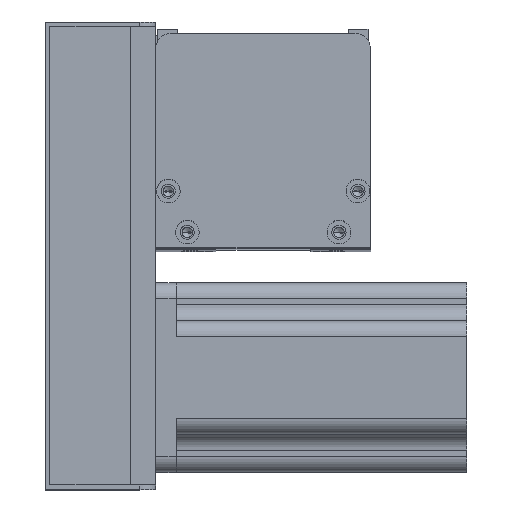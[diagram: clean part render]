
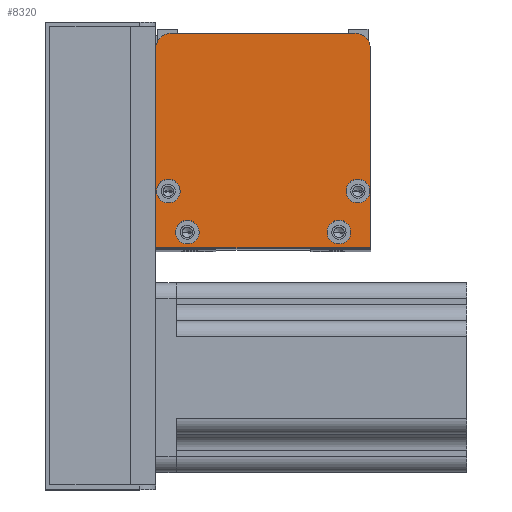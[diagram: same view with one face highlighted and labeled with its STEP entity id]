
A CAD part, top view. The second image highlights one B-rep face of the part: STEP entity #8320.
In plain terms, the highlighted planar face has unit normal (0, 0, 1) as drawn and (0, 0, -1) by its records, which use the part's own axes.
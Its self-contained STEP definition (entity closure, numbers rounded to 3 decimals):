
#106 = DIRECTION ( 'NONE',  ( 0., 0., -1. ) ) ;
#337 = CARTESIAN_POINT ( 'NONE',  ( 0., 0., 0. ) ) ;
#727 = AXIS2_PLACEMENT_3D ( 'NONE', #23119, #25341, #7541 ) ;
#812 = EDGE_CURVE ( 'NONE', #918, #6177, #8891, .T. ) ;
#838 = VERTEX_POINT ( 'NONE', #6236 ) ;
#918 = VERTEX_POINT ( 'NONE', #24018 ) ;
#922 = CARTESIAN_POINT ( 'NONE',  ( 7.75, 18., 0. ) ) ;
#1295 = EDGE_LOOP ( 'NONE', ( #4716, #22606, #21475, #19825, #5193, #1501 ) ) ;
#1487 = EDGE_CURVE ( 'NONE', #25387, #25474, #13544, .T. ) ;
#1501 = ORIENTED_EDGE ( 'NONE', *, *, #9796, .F. ) ;
#1658 = VERTEX_POINT ( 'NONE', #7023 ) ;
#2533 = VECTOR ( 'NONE', #11234, 1000. ) ;
#2641 = VERTEX_POINT ( 'NONE', #20633 ) ;
#2705 = CIRCLE ( 'NONE', #727, 3.75 ) ;
#2722 = EDGE_CURVE ( 'NONE', #11099, #2641, #19748, .T. ) ;
#3133 = DIRECTION ( 'NONE',  ( 0., 1., 0. ) ) ;
#3164 = CARTESIAN_POINT ( 'NONE',  ( 6.25, 5., 0. ) ) ;
#3736 = EDGE_CURVE ( 'NONE', #22173, #8537, #14357, .T. ) ;
#3823 = DIRECTION ( 'NONE',  ( 0., 0., -1. ) ) ;
#3902 = CARTESIAN_POINT ( 'NONE',  ( 63., 63., 0. ) ) ;
#3905 = CIRCLE ( 'NONE', #6920, 3.75 ) ;
#4157 = ORIENTED_EDGE ( 'NONE', *, *, #8635, .F. ) ;
#4221 = CARTESIAN_POINT ( 'NONE',  ( 4., 18., 0. ) ) ;
#4716 = ORIENTED_EDGE ( 'NONE', *, *, #4945, .F. ) ;
#4934 = ORIENTED_EDGE ( 'NONE', *, *, #1487, .F. ) ;
#4945 = EDGE_CURVE ( 'NONE', #838, #18452, #21018, .T. ) ;
#5099 = CIRCLE ( 'NONE', #17004, 3.75 ) ;
#5193 = ORIENTED_EDGE ( 'NONE', *, *, #2722, .F. ) ;
#5435 = EDGE_CURVE ( 'NONE', #25474, #25387, #14721, .T. ) ;
#5538 = FACE_BOUND ( 'NONE', #16887, .T. ) ;
#5614 = AXIS2_PLACEMENT_3D ( 'NONE', #10322, #6140, #14075 ) ;
#5777 = VECTOR ( 'NONE', #13122, 1000. ) ;
#5878 = CIRCLE ( 'NONE', #13286, 3.75 ) ;
#6140 = DIRECTION ( 'NONE',  ( 0., 0., -1. ) ) ;
#6164 = DIRECTION ( 'NONE',  ( 0., 0., 1. ) ) ;
#6177 = VERTEX_POINT ( 'NONE', #11402 ) ;
#6236 = CARTESIAN_POINT ( 'NONE',  ( 0., 63., 0. ) ) ;
#6920 = AXIS2_PLACEMENT_3D ( 'NONE', #4221, #106, #15967 ) ;
#7019 = CARTESIAN_POINT ( 'NONE',  ( 68., 0., 0. ) ) ;
#7023 = CARTESIAN_POINT ( 'NONE',  ( 54.25, 5., 0. ) ) ;
#7030 = DIRECTION ( 'NONE',  ( 0., 0., -1. ) ) ;
#7290 = DIRECTION ( 'NONE',  ( 0., 0., -1. ) ) ;
#7381 = CIRCLE ( 'NONE', #5614, 5. ) ;
#7541 = DIRECTION ( 'NONE',  ( -1., 0., 0. ) ) ;
#7988 = EDGE_CURVE ( 'NONE', #6177, #918, #5878, .T. ) ;
#8244 = PLANE ( 'NONE',  #12789 ) ;
#8320 = ADVANCED_FACE ( 'NONE', ( #18039, #16183, #10851, #5538, #22775 ), #8244, .F. ) ;
#8537 = VERTEX_POINT ( 'NONE', #24985 ) ;
#8635 = EDGE_CURVE ( 'NONE', #1658, #13473, #2705, .T. ) ;
#8891 = CIRCLE ( 'NONE', #10342, 3.75 ) ;
#9253 = EDGE_CURVE ( 'NONE', #838, #21835, #7381, .T. ) ;
#9796 = EDGE_CURVE ( 'NONE', #18452, #11099, #12613, .T. ) ;
#9977 = EDGE_CURVE ( 'NONE', #13473, #1658, #5099, .T. ) ;
#10002 = DIRECTION ( 'NONE',  ( 1., 0., 0. ) ) ;
#10155 = DIRECTION ( 'NONE',  ( 0., 0., -1. ) ) ;
#10195 = AXIS2_PLACEMENT_3D ( 'NONE', #12602, #12686, #16468 ) ;
#10322 = CARTESIAN_POINT ( 'NONE',  ( 5., 63., 0. ) ) ;
#10342 = AXIS2_PLACEMENT_3D ( 'NONE', #25979, #10155, #23935 ) ;
#10821 = EDGE_LOOP ( 'NONE', ( #20292, #25629 ) ) ;
#10851 = FACE_BOUND ( 'NONE', #17739, .T. ) ;
#10856 = EDGE_LOOP ( 'NONE', ( #11630, #17245 ) ) ;
#11099 = VERTEX_POINT ( 'NONE', #23438 ) ;
#11124 = DIRECTION ( 'NONE',  ( 0., 0., -1. ) ) ;
#11234 = DIRECTION ( 'NONE',  ( 0., -1., 0. ) ) ;
#11364 = CARTESIAN_POINT ( 'NONE',  ( 58., 5., 0. ) ) ;
#11374 = EDGE_CURVE ( 'NONE', #8537, #22173, #3905, .T. ) ;
#11402 = CARTESIAN_POINT ( 'NONE',  ( 67.75, 18., 0. ) ) ;
#11630 = ORIENTED_EDGE ( 'NONE', *, *, #11374, .F. ) ;
#11668 = DIRECTION ( 'NONE',  ( 1., 0., 0. ) ) ;
#12602 = CARTESIAN_POINT ( 'NONE',  ( 10., 5., 0. ) ) ;
#12613 = LINE ( 'NONE', #7019, #5777 ) ;
#12686 = DIRECTION ( 'NONE',  ( 0., 0., -1. ) ) ;
#12779 = CARTESIAN_POINT ( 'NONE',  ( 4., 18., 0. ) ) ;
#12789 = AXIS2_PLACEMENT_3D ( 'NONE', #16117, #6164, #10002 ) ;
#13122 = DIRECTION ( 'NONE',  ( 1., 0., 0. ) ) ;
#13139 = CARTESIAN_POINT ( 'NONE',  ( 64., 18., 0. ) ) ;
#13286 = AXIS2_PLACEMENT_3D ( 'NONE', #13139, #11124, #25370 ) ;
#13473 = VERTEX_POINT ( 'NONE', #17646 ) ;
#13544 = CIRCLE ( 'NONE', #10195, 3.75 ) ;
#14075 = DIRECTION ( 'NONE',  ( 1., 0., 0. ) ) ;
#14357 = CIRCLE ( 'NONE', #22349, 3.75 ) ;
#14633 = DIRECTION ( 'NONE',  ( -1., 0., 0. ) ) ;
#14721 = CIRCLE ( 'NONE', #23608, 3.75 ) ;
#14836 = LINE ( 'NONE', #21439, #23341 ) ;
#15142 = DIRECTION ( 'NONE',  ( -1., 0., 0. ) ) ;
#15684 = EDGE_CURVE ( 'NONE', #20360, #2641, #25378, .T. ) ;
#15967 = DIRECTION ( 'NONE',  ( -1., 0., 0. ) ) ;
#16117 = CARTESIAN_POINT ( 'NONE',  ( 0., 0., 0. ) ) ;
#16183 = FACE_BOUND ( 'NONE', #10856, .T. ) ;
#16468 = DIRECTION ( 'NONE',  ( -1., 0., 0. ) ) ;
#16887 = EDGE_LOOP ( 'NONE', ( #4157, #18063 ) ) ;
#17004 = AXIS2_PLACEMENT_3D ( 'NONE', #11364, #7290, #21298 ) ;
#17245 = ORIENTED_EDGE ( 'NONE', *, *, #3736, .F. ) ;
#17264 = CARTESIAN_POINT ( 'NONE',  ( 63., 68., 0. ) ) ;
#17646 = CARTESIAN_POINT ( 'NONE',  ( 61.75, 5., 0. ) ) ;
#17739 = EDGE_LOOP ( 'NONE', ( #18874, #4934 ) ) ;
#18039 = FACE_BOUND ( 'NONE', #10821, .T. ) ;
#18063 = ORIENTED_EDGE ( 'NONE', *, *, #9977, .F. ) ;
#18452 = VERTEX_POINT ( 'NONE', #337 ) ;
#18457 = VECTOR ( 'NONE', #3133, 1000. ) ;
#18874 = ORIENTED_EDGE ( 'NONE', *, *, #5435, .F. ) ;
#18936 = CARTESIAN_POINT ( 'NONE',  ( 68., 0., 0. ) ) ;
#19229 = DIRECTION ( 'NONE',  ( -1., 0., 0. ) ) ;
#19748 = LINE ( 'NONE', #18936, #18457 ) ;
#19825 = ORIENTED_EDGE ( 'NONE', *, *, #15684, .T. ) ;
#20292 = ORIENTED_EDGE ( 'NONE', *, *, #812, .F. ) ;
#20360 = VERTEX_POINT ( 'NONE', #17264 ) ;
#20633 = CARTESIAN_POINT ( 'NONE',  ( 68., 63., 0. ) ) ;
#20770 = DIRECTION ( 'NONE',  ( 0., 0., -1. ) ) ;
#20925 = CARTESIAN_POINT ( 'NONE',  ( 13.75, 5., 0. ) ) ;
#21018 = LINE ( 'NONE', #21164, #2533 ) ;
#21164 = CARTESIAN_POINT ( 'NONE',  ( 0., 0., 0. ) ) ;
#21298 = DIRECTION ( 'NONE',  ( -1., 0., 0. ) ) ;
#21439 = CARTESIAN_POINT ( 'NONE',  ( 68., 68., 0. ) ) ;
#21475 = ORIENTED_EDGE ( 'NONE', *, *, #21697, .F. ) ;
#21697 = EDGE_CURVE ( 'NONE', #20360, #21835, #14836, .T. ) ;
#21835 = VERTEX_POINT ( 'NONE', #21877 ) ;
#21877 = CARTESIAN_POINT ( 'NONE',  ( 5., 68., 0. ) ) ;
#22173 = VERTEX_POINT ( 'NONE', #922 ) ;
#22349 = AXIS2_PLACEMENT_3D ( 'NONE', #12779, #20770, #14633 ) ;
#22606 = ORIENTED_EDGE ( 'NONE', *, *, #9253, .T. ) ;
#22775 = FACE_OUTER_BOUND ( 'NONE', #1295, .T. ) ;
#22869 = AXIS2_PLACEMENT_3D ( 'NONE', #3902, #3823, #11668 ) ;
#23119 = CARTESIAN_POINT ( 'NONE',  ( 58., 5., 0. ) ) ;
#23341 = VECTOR ( 'NONE', #19229, 1000. ) ;
#23438 = CARTESIAN_POINT ( 'NONE',  ( 68., 0., 0. ) ) ;
#23608 = AXIS2_PLACEMENT_3D ( 'NONE', #24919, #7030, #15142 ) ;
#23935 = DIRECTION ( 'NONE',  ( -1., 0., 0. ) ) ;
#24018 = CARTESIAN_POINT ( 'NONE',  ( 60.25, 18., 0. ) ) ;
#24919 = CARTESIAN_POINT ( 'NONE',  ( 10., 5., 0. ) ) ;
#24985 = CARTESIAN_POINT ( 'NONE',  ( 0.25, 18., 0. ) ) ;
#25341 = DIRECTION ( 'NONE',  ( 0., 0., -1. ) ) ;
#25370 = DIRECTION ( 'NONE',  ( -1., 0., 0. ) ) ;
#25378 = CIRCLE ( 'NONE', #22869, 5. ) ;
#25387 = VERTEX_POINT ( 'NONE', #20925 ) ;
#25474 = VERTEX_POINT ( 'NONE', #3164 ) ;
#25629 = ORIENTED_EDGE ( 'NONE', *, *, #7988, .F. ) ;
#25979 = CARTESIAN_POINT ( 'NONE',  ( 64., 18., 0. ) ) ;
